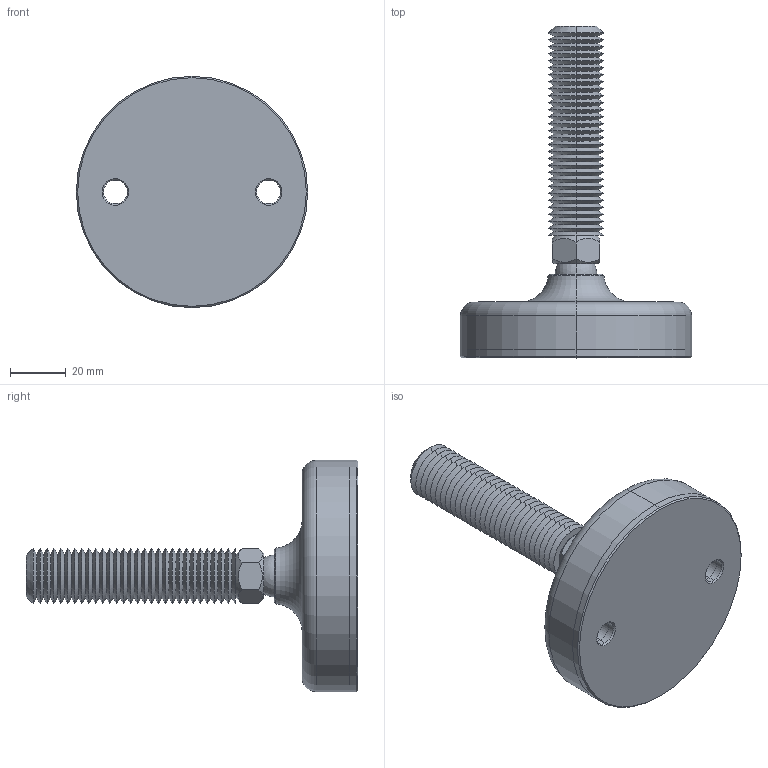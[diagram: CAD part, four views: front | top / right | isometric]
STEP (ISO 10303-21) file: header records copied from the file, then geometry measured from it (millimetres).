
FILE_DESCRIPTION (( 'STEP AP203' ), '1' );
FILE_NAME ('34724.W2000.step', '2019-11-28T22:15:30', ( '' ), ( '' ), 'SwSTEP 2.0', 'SolidWorks 2017', '' );
FILE_SCHEMA (( 'CONFIG_CONTROL_DESIGN' ));
Length unit declared in the file: millimetre
Products named in the file (4): Part2_34724.W2000; Part3_34724.W2000; 34724.W2000; Part1_34724.W2000
Assembly tree (3 placements, depth 2):
  34724.W2000
    Part1_34724.W2000
    Part2_34724.W2000
    Part3_34724.W2000
Bounding box: 83 x 119 x 83 mm (x, y, z)
Volume: 131201 mm3; surface area: 37230.4 mm2
Topology: 3 solids, 3 shells, 168 faces, 351 edges, 189 vertices
Faces by surface type: cone 134, plane 14, cylinder 12, sphere 4, torus 4
Entity records: 4862 total; most frequent: DIRECTION 856, CARTESIAN_POINT 848, ORIENTED_EDGE 684, AXIS2_PLACEMENT_3D 352, EDGE_CURVE 342, VERTEX_POINT 184, EDGE_LOOP 180, CIRCLE 178
